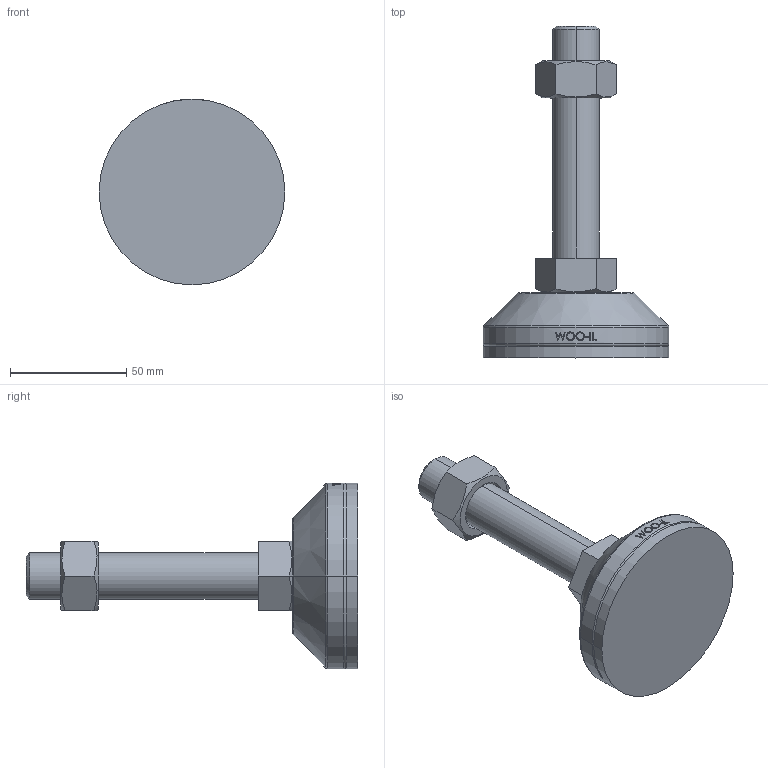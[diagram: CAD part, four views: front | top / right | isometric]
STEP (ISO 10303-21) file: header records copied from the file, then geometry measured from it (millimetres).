
FILE_DESCRIPTION (( 'STEP AP214' ), '1' );
FILE_NAME ('NHNR80-M20-100.step', '2021-01-25T06:22:18', ( '' ), ( '' ), 'SwSTEP 2.0', 'SolidWorks 2019', '' );
FILE_SCHEMA (( 'AUTOMOTIVE_DESIGN' ));
Length unit declared in the file: millimetre
Products named in the file (2): NHNR80-M20-100
Bounding box: 80 x 143 x 80 mm (x, y, z)
Volume: 166294.8 mm3; surface area: 37548 mm2
Topology: 4 solids, 4 shells, 105 faces, 243 edges, 156 vertices
Faces by surface type: plane 49, cylinder 18, bspline 16, cone 14, torus 8
Entity records: 4407 total; most frequent: CARTESIAN_POINT 2070, ORIENTED_EDGE 486, DIRECTION 429, EDGE_CURVE 243, AXIS2_PLACEMENT_3D 165, VERTEX_POINT 156, EDGE_LOOP 117, FACE_OUTER_BOUND 105
